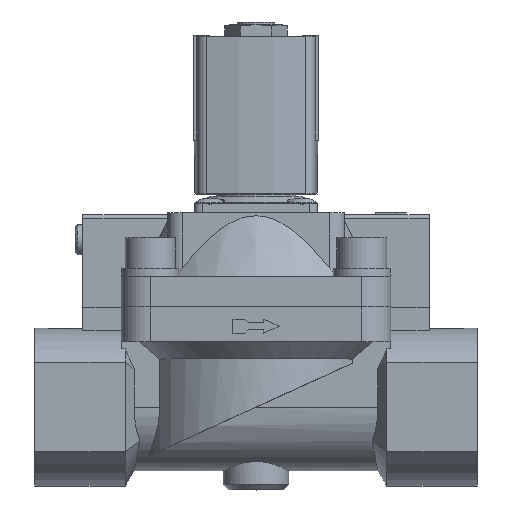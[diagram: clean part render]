
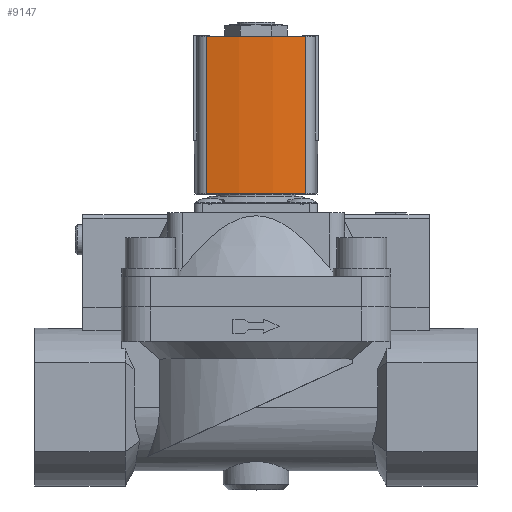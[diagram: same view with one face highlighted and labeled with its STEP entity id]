
A CAD part, top view. The second image highlights one B-rep face of the part: STEP entity #9147.
In plain terms, the highlighted cylindrical face has radius 60 mm (diameter 120 mm), a partial arc.
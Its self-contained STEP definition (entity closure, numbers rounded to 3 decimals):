
#206=CIRCLE('',#11742,60.);
#300=CIRCLE('',#11963,60.);
#1618=LINE('',#17252,#2616);
#1619=LINE('',#17256,#2617);
#2616=VECTOR('',#14213,1000.);
#2617=VECTOR('',#14218,1000.);
#4712=ORIENTED_EDGE('',*,*,#6569,.T.);
#4713=ORIENTED_EDGE('',*,*,#6570,.F.);
#4714=ORIENTED_EDGE('',*,*,#5855,.F.);
#4715=ORIENTED_EDGE('',*,*,#6568,.T.);
#5855=EDGE_CURVE('',#7025,#7026,#206,.T.);
#6568=EDGE_CURVE('',#7025,#7531,#1618,.T.);
#6569=EDGE_CURVE('',#7531,#7532,#300,.T.);
#6570=EDGE_CURVE('',#7026,#7532,#1619,.T.);
#7025=VERTEX_POINT('',#15906);
#7026=VERTEX_POINT('',#15908);
#7531=VERTEX_POINT('',#17251);
#7532=VERTEX_POINT('',#17255);
#7990=EDGE_LOOP('',(#4712,#4713,#4714,#4715));
#8564=FACE_BOUND('',#7990,.T.);
#8804=CYLINDRICAL_SURFACE('',#11962,60.);
#9147=ADVANCED_FACE('',(#8564),#8804,.T.);
#11742=AXIS2_PLACEMENT_3D('',#15907,#13154,#13155);
#11962=AXIS2_PLACEMENT_3D('',#17253,#14214,#14215);
#11963=AXIS2_PLACEMENT_3D('',#17254,#14216,#14217);
#13154=DIRECTION('',(0.,1.,0.));
#13155=DIRECTION('',(1.,0.,0.));
#14213=DIRECTION('',(0.,-1.,0.));
#14214=DIRECTION('',(0.,-1.,0.));
#14215=DIRECTION('',(0.,0.,-1.));
#14216=DIRECTION('',(0.,1.,0.));
#14217=DIRECTION('',(1.,0.,0.));
#14218=DIRECTION('',(0.,-1.,0.));
#15906=CARTESIAN_POINT('',(19.078,15.,12.986));
#15907=CARTESIAN_POINT('',(-39.5,15.,0.));
#15908=CARTESIAN_POINT('',(19.078,15.,-12.986));
#17251=CARTESIAN_POINT('',(19.078,-26.,12.986));
#17252=CARTESIAN_POINT('',(19.078,15.,12.986));
#17253=CARTESIAN_POINT('',(-39.5,15.,0.));
#17254=CARTESIAN_POINT('',(-39.5,-26.,0.));
#17255=CARTESIAN_POINT('',(19.078,-26.,-12.986));
#17256=CARTESIAN_POINT('',(19.078,15.,-12.986));
